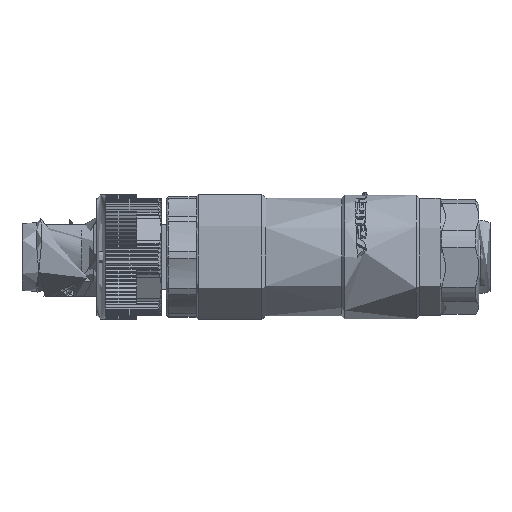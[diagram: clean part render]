
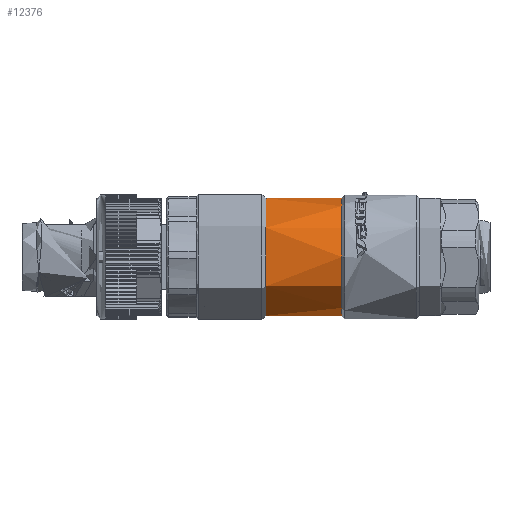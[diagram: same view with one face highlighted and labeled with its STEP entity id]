
A CAD part, left-side view. The second image highlights one B-rep face of the part: STEP entity #12376.
In plain terms, the highlighted cylindrical face has radius 5.9 mm (diameter 11.8 mm), a partial arc.
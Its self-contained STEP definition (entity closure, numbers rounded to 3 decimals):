
#462 = CARTESIAN_POINT ( 'NONE',  ( 0., -22.5, 0. ) ) ;
#791 = ORIENTED_EDGE ( 'NONE', *, *, #38663, .F. ) ;
#1703 = EDGE_CURVE ( 'NONE', #26917, #4657, #16627, .T. ) ;
#4145 = DIRECTION ( 'NONE',  ( 0., 0., 1. ) ) ;
#4657 = VERTEX_POINT ( 'NONE', #34813 ) ;
#6308 = AXIS2_PLACEMENT_3D ( 'NONE', #462, #25855, #4145 ) ;
#6467 = AXIS2_PLACEMENT_3D ( 'NONE', #34100, #33209, #37196 ) ;
#6946 = CARTESIAN_POINT ( 'NONE',  ( 0., -22.5, 5.9 ) ) ;
#9300 = VERTEX_POINT ( 'NONE', #26690 ) ;
#11679 = VERTEX_POINT ( 'NONE', #6946 ) ;
#12186 = ORIENTED_EDGE ( 'NONE', *, *, #18417, .T. ) ;
#12376 = ADVANCED_FACE ( 'NONE', ( #29143 ), #37523, .F. ) ;
#12603 = DIRECTION ( 'NONE',  ( 0., -1., 0. ) ) ;
#13054 = DIRECTION ( 'NONE',  ( 0., 0., 1. ) ) ;
#13185 = DIRECTION ( 'NONE',  ( 0., -1., 0. ) ) ;
#13290 = CARTESIAN_POINT ( 'NONE',  ( 0., -30.1, 0. ) ) ;
#13886 = CIRCLE ( 'NONE', #6308, 5.9 ) ;
#15155 = ORIENTED_EDGE ( 'NONE', *, *, #45395, .T. ) ;
#16627 = CIRCLE ( 'NONE', #41244, 5.9 ) ;
#16739 = ORIENTED_EDGE ( 'NONE', *, *, #1703, .T. ) ;
#17294 = ORIENTED_EDGE ( 'NONE', *, *, #35764, .F. ) ;
#18417 = EDGE_CURVE ( 'NONE', #44238, #9300, #24266, .T. ) ;
#18609 = CARTESIAN_POINT ( 'NONE',  ( 0., -30.1, -5.9 ) ) ;
#18654 = CARTESIAN_POINT ( 'NONE',  ( 0., -30.1, 5.9 ) ) ;
#23489 = DIRECTION ( 'NONE',  ( 0., 1., 0. ) ) ;
#24134 = LINE ( 'NONE', #24871, #41925 ) ;
#24266 = LINE ( 'NONE', #27090, #32691 ) ;
#24871 = CARTESIAN_POINT ( 'NONE',  ( 0., -9., 5.9 ) ) ;
#25855 = DIRECTION ( 'NONE',  ( 0., -1., 0. ) ) ;
#26690 = CARTESIAN_POINT ( 'NONE',  ( 0., -22.5, -5.9 ) ) ;
#26917 = VERTEX_POINT ( 'NONE', #18654 ) ;
#27090 = CARTESIAN_POINT ( 'NONE',  ( 0., -9., -5.9 ) ) ;
#28443 = DIRECTION ( 'NONE',  ( 0., 1., 0. ) ) ;
#29143 = FACE_OUTER_BOUND ( 'NONE', #29471, .T. ) ;
#29471 = EDGE_LOOP ( 'NONE', ( #15155, #12186, #791, #17294, #16739 ) ) ;
#32691 = VECTOR ( 'NONE', #23489, 1000. ) ;
#33209 = DIRECTION ( 'NONE',  ( 0., 1., 0. ) ) ;
#34100 = CARTESIAN_POINT ( 'NONE',  ( 0., -9., 0. ) ) ;
#34122 = CARTESIAN_POINT ( 'NONE',  ( 0., -30.1, 0. ) ) ;
#34813 = CARTESIAN_POINT ( 'NONE',  ( -5.9, -30.1, 0. ) ) ;
#35764 = EDGE_CURVE ( 'NONE', #26917, #11679, #24134, .T. ) ;
#37196 = DIRECTION ( 'NONE',  ( 0., 0., 1. ) ) ;
#37523 = CYLINDRICAL_SURFACE ( 'NONE', #6467, 5.9 ) ;
#37683 = DIRECTION ( 'NONE',  ( 0., 0., 1. ) ) ;
#38663 = EDGE_CURVE ( 'NONE', #11679, #9300, #13886, .T. ) ;
#40290 = CIRCLE ( 'NONE', #42221, 5.9 ) ;
#41244 = AXIS2_PLACEMENT_3D ( 'NONE', #13290, #13185, #13054 ) ;
#41925 = VECTOR ( 'NONE', #28443, 1000. ) ;
#42221 = AXIS2_PLACEMENT_3D ( 'NONE', #34122, #12603, #37683 ) ;
#44238 = VERTEX_POINT ( 'NONE', #18609 ) ;
#45395 = EDGE_CURVE ( 'NONE', #4657, #44238, #40290, .T. ) ;
